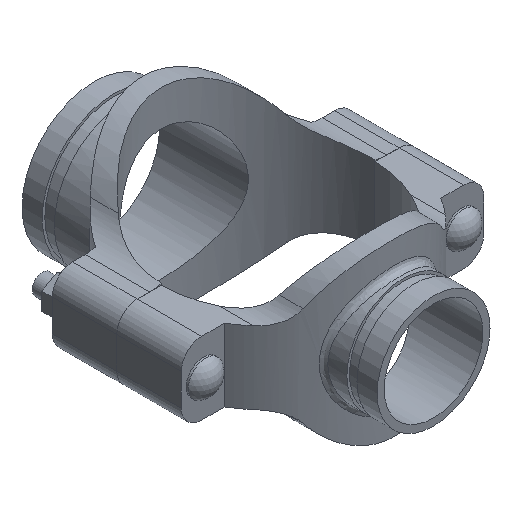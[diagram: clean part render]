
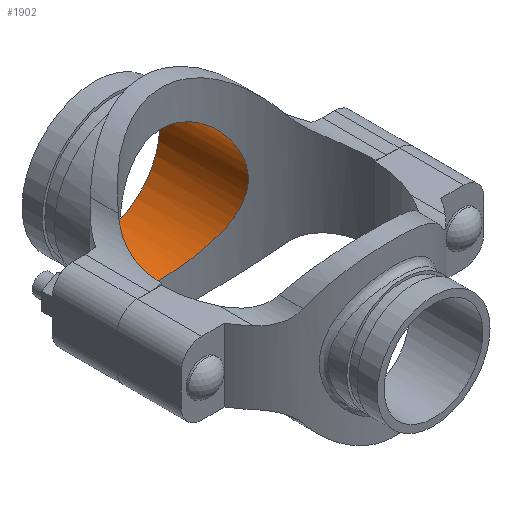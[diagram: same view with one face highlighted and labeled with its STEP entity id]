
A CAD part, isometric view. The second image highlights one B-rep face of the part: STEP entity #1902.
In plain terms, the highlighted cylindrical face has radius 51.197 mm (diameter 102.394 mm), a full revolution.
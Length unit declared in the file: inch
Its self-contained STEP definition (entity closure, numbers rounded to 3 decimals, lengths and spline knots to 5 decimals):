
#33=B_SPLINE_CURVE_WITH_KNOTS('',3,(#3260,#3261,#3262,#3263,#3264,#3265,
#3266,#3267,#3268,#3269,#3270,#3271,#3272,#3273,#3274,#3275,#3276,#3277,
#3278,#3279,#3280,#3281,#3282,#3283,#3284,#3285,#3286,#3287,#3288,#3289,
#3290,#3291,#3292,#3293,#3294,#3295,#3296,#3297,#3298,#3299,#3300,#3301,
#3302,#3303,#3304,#3305,#3306,#3307,#3308,#3309,#3310,#3311,#3312,#3313,
#3314,#3315,#3316,#3317,#3318,#3319,#3320,#3321,#3322,#3323,#3324,#3325),
 .UNSPECIFIED.,.T.,.F.,(4,2,2,2,2,2,2,2,2,2,2,2,2,2,2,2,2,2,2,2,2,2,2,2,
2,2,2,2,2,2,2,2,4),(0.,0.99933,1.99866,2.99799,
3.99732,4.98974,5.98216,6.97458,7.967,
8.95942,9.95184,10.94426,11.93668,12.93601,
13.93534,14.93467,15.934,16.93333,17.93266,
18.93199,19.93132,20.92374,21.91616,22.90858,
23.901,24.89342,25.88584,26.87826,27.87068,
28.87001,29.86934,30.86867,31.868),
 .UNSPECIFIED.);
#71=CYLINDRICAL_SURFACE('',#2098,2.01563);
#168=FACE_OUTER_BOUND('',#279,.T.);
#279=EDGE_LOOP('',(#1348,#1349,#1350,#1351));
#422=LINE('',#3259,#568);
#568=VECTOR('',#2426,2.01563);
#683=CIRCLE('',#2099,2.01563);
#810=VERTEX_POINT('',#3256);
#811=VERTEX_POINT('',#3258);
#1016=EDGE_CURVE('',#810,#810,#683,.T.);
#1017=EDGE_CURVE('',#810,#811,#422,.T.);
#1018=EDGE_CURVE('',#811,#811,#33,.T.);
#1348=ORIENTED_EDGE('',*,*,#1016,.F.);
#1349=ORIENTED_EDGE('',*,*,#1017,.T.);
#1350=ORIENTED_EDGE('',*,*,#1018,.F.);
#1351=ORIENTED_EDGE('',*,*,#1017,.F.);
#1902=ADVANCED_FACE('',(#168),#71,.F.);
#2098=AXIS2_PLACEMENT_3D('',#3255,#2422,#2423);
#2099=AXIS2_PLACEMENT_3D('',#3257,#2424,#2425);
#2422=DIRECTION('center_axis',(0.,-1.,0.));
#2423=DIRECTION('ref_axis',(-1.,0.,0.));
#2424=DIRECTION('center_axis',(0.,-1.,0.));
#2425=DIRECTION('ref_axis',(-1.,0.,0.));
#2426=DIRECTION('',(0.,-1.,0.));
#3255=CARTESIAN_POINT('Origin',(0.,5.38,0.));
#3256=CARTESIAN_POINT('',(2.01563,5.38,0.));
#3257=CARTESIAN_POINT('Origin',(0.,5.38,0.));
#3258=CARTESIAN_POINT('',(2.01563,2.62867,0.));
#3259=CARTESIAN_POINT('',(2.01563,5.38,0.));
#3260=CARTESIAN_POINT('Ctrl Pts',(2.01563,2.62867,0.));
#3261=CARTESIAN_POINT('Ctrl Pts',(2.01563,2.62867,-0.13115));
#3262=CARTESIAN_POINT('Ctrl Pts',(2.00264,2.63878,-0.26501));
#3263=CARTESIAN_POINT('Ctrl Pts',(1.94977,2.67809,-0.52838));
#3264=CARTESIAN_POINT('Ctrl Pts',(1.90992,2.70718,-0.65791));
#3265=CARTESIAN_POINT('Ctrl Pts',(1.80625,2.77742,-0.90448));
#3266=CARTESIAN_POINT('Ctrl Pts',(1.74235,2.81852,-1.02178));
#3267=CARTESIAN_POINT('Ctrl Pts',(1.59581,2.904,-1.23823));
#3268=CARTESIAN_POINT('Ctrl Pts',(1.51314,2.94831,-1.33739));
#3269=CARTESIAN_POINT('Ctrl Pts',(1.33799,3.03179,-1.51253));
#3270=CARTESIAN_POINT('Ctrl Pts',(1.23915,3.07415,-1.5951));
#3271=CARTESIAN_POINT('Ctrl Pts',(1.02263,3.1528,-1.74186));
#3272=CARTESIAN_POINT('Ctrl Pts',(0.90493,3.18904,-1.80606));
#3273=CARTESIAN_POINT('Ctrl Pts',(0.65747,3.24909,-1.9101));
#3274=CARTESIAN_POINT('Ctrl Pts',(0.52745,3.27293,-1.95003));
#3275=CARTESIAN_POINT('Ctrl Pts',(0.26384,3.30464,-2.0028));
#3276=CARTESIAN_POINT('Ctrl Pts',(0.13024,3.3125,-2.01563));
#3277=CARTESIAN_POINT('Ctrl Pts',(-0.13024,3.3125,-2.01563));
#3278=CARTESIAN_POINT('Ctrl Pts',(-0.26384,3.30464,-2.0028));
#3279=CARTESIAN_POINT('Ctrl Pts',(-0.52745,3.27293,-1.95003));
#3280=CARTESIAN_POINT('Ctrl Pts',(-0.65747,3.24909,-1.9101));
#3281=CARTESIAN_POINT('Ctrl Pts',(-0.90493,3.18904,-1.80606));
#3282=CARTESIAN_POINT('Ctrl Pts',(-1.02263,3.1528,-1.74186));
#3283=CARTESIAN_POINT('Ctrl Pts',(-1.23915,3.07415,-1.5951));
#3284=CARTESIAN_POINT('Ctrl Pts',(-1.33799,3.03179,-1.51253));
#3285=CARTESIAN_POINT('Ctrl Pts',(-1.51314,2.94831,-1.33739));
#3286=CARTESIAN_POINT('Ctrl Pts',(-1.59581,2.904,-1.23823));
#3287=CARTESIAN_POINT('Ctrl Pts',(-1.74235,2.81852,-1.02178));
#3288=CARTESIAN_POINT('Ctrl Pts',(-1.80625,2.77742,-0.90448));
#3289=CARTESIAN_POINT('Ctrl Pts',(-1.90992,2.70718,-0.65791));
#3290=CARTESIAN_POINT('Ctrl Pts',(-1.94977,2.67809,-0.52838));
#3291=CARTESIAN_POINT('Ctrl Pts',(-2.00264,2.63878,-0.26501));
#3292=CARTESIAN_POINT('Ctrl Pts',(-2.01563,2.62867,-0.13115));
#3293=CARTESIAN_POINT('Ctrl Pts',(-2.01563,2.62867,0.13115));
#3294=CARTESIAN_POINT('Ctrl Pts',(-2.00264,2.63878,0.26501));
#3295=CARTESIAN_POINT('Ctrl Pts',(-1.94977,2.67809,0.52838));
#3296=CARTESIAN_POINT('Ctrl Pts',(-1.90992,2.70718,0.65791));
#3297=CARTESIAN_POINT('Ctrl Pts',(-1.80625,2.77742,0.90448));
#3298=CARTESIAN_POINT('Ctrl Pts',(-1.74235,2.81852,1.02178));
#3299=CARTESIAN_POINT('Ctrl Pts',(-1.59581,2.904,1.23823));
#3300=CARTESIAN_POINT('Ctrl Pts',(-1.51314,2.94831,1.33739));
#3301=CARTESIAN_POINT('Ctrl Pts',(-1.33799,3.03179,1.51253));
#3302=CARTESIAN_POINT('Ctrl Pts',(-1.23915,3.07415,1.5951));
#3303=CARTESIAN_POINT('Ctrl Pts',(-1.02263,3.1528,1.74186));
#3304=CARTESIAN_POINT('Ctrl Pts',(-0.90493,3.18904,1.80606));
#3305=CARTESIAN_POINT('Ctrl Pts',(-0.65747,3.24909,1.9101));
#3306=CARTESIAN_POINT('Ctrl Pts',(-0.52745,3.27293,1.95003));
#3307=CARTESIAN_POINT('Ctrl Pts',(-0.26384,3.30464,2.0028));
#3308=CARTESIAN_POINT('Ctrl Pts',(-0.13024,3.3125,2.01563));
#3309=CARTESIAN_POINT('Ctrl Pts',(0.13024,3.3125,2.01563));
#3310=CARTESIAN_POINT('Ctrl Pts',(0.26384,3.30464,2.0028));
#3311=CARTESIAN_POINT('Ctrl Pts',(0.52745,3.27293,1.95003));
#3312=CARTESIAN_POINT('Ctrl Pts',(0.65747,3.24909,1.9101));
#3313=CARTESIAN_POINT('Ctrl Pts',(0.90493,3.18904,1.80606));
#3314=CARTESIAN_POINT('Ctrl Pts',(1.02263,3.1528,1.74186));
#3315=CARTESIAN_POINT('Ctrl Pts',(1.23915,3.07415,1.5951));
#3316=CARTESIAN_POINT('Ctrl Pts',(1.33799,3.03179,1.51253));
#3317=CARTESIAN_POINT('Ctrl Pts',(1.51314,2.94831,1.33739));
#3318=CARTESIAN_POINT('Ctrl Pts',(1.59581,2.904,1.23823));
#3319=CARTESIAN_POINT('Ctrl Pts',(1.74235,2.81852,1.02178));
#3320=CARTESIAN_POINT('Ctrl Pts',(1.80625,2.77742,0.90448));
#3321=CARTESIAN_POINT('Ctrl Pts',(1.90992,2.70718,0.65791));
#3322=CARTESIAN_POINT('Ctrl Pts',(1.94977,2.67809,0.52838));
#3323=CARTESIAN_POINT('Ctrl Pts',(2.00264,2.63878,0.26501));
#3324=CARTESIAN_POINT('Ctrl Pts',(2.01563,2.62867,0.13115));
#3325=CARTESIAN_POINT('Ctrl Pts',(2.01563,2.62867,0.));
